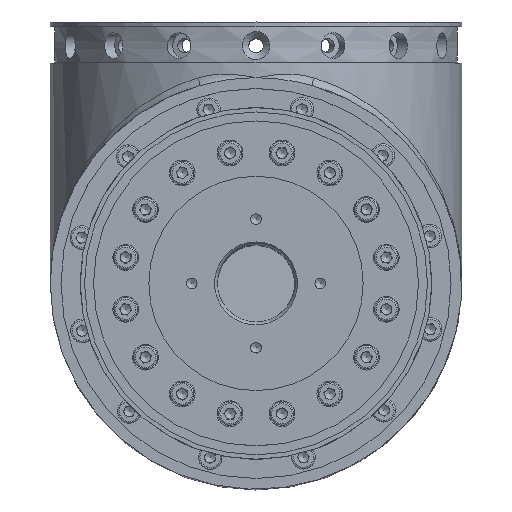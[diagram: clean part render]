
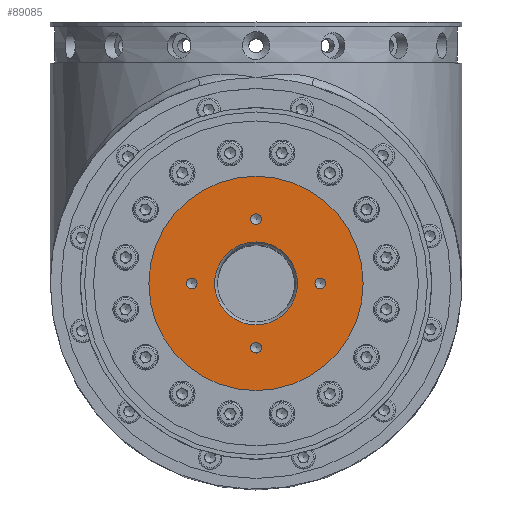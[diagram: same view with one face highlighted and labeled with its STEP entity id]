
A CAD part, top view. The second image highlights one B-rep face of the part: STEP entity #89085.
In plain terms, the highlighted planar face has unit normal (0, 0, 1).
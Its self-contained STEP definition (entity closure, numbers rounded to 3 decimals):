
#2468 = ORIENTED_EDGE ( 'NONE', *, *, #68389, .F. ) ;
#2824 = CIRCLE ( 'NONE', #20443, 1.25 ) ;
#6786 = DIRECTION ( 'NONE',  ( 1., 0., 0. ) ) ;
#7253 = DIRECTION ( 'NONE',  ( 0., 0., 1. ) ) ;
#11720 = DIRECTION ( 'NONE',  ( 0., 0., 1. ) ) ;
#12011 = VERTEX_POINT ( 'NONE', #95193 ) ;
#12749 = VERTEX_POINT ( 'NONE', #43337 ) ;
#13172 = ORIENTED_EDGE ( 'NONE', *, *, #71803, .F. ) ;
#14594 = VERTEX_POINT ( 'NONE', #45179 ) ;
#14777 = CARTESIAN_POINT ( 'NONE',  ( 0., 15., 10.5 ) ) ;
#14791 = CIRCLE ( 'NONE', #58028, 1.25 ) ;
#15651 = EDGE_LOOP ( 'NONE', ( #2468 ) ) ;
#16644 = EDGE_LOOP ( 'NONE', ( #58178 ) ) ;
#19090 = AXIS2_PLACEMENT_3D ( 'NONE', #80443, #48901, #35396 ) ;
#20017 = EDGE_CURVE ( 'NONE', #14594, #14594, #97496, .T. ) ;
#20443 = AXIS2_PLACEMENT_3D ( 'NONE', #66351, #11720, #42305 ) ;
#23036 = DIRECTION ( 'NONE',  ( -1., 0., 0. ) ) ;
#24969 = CARTESIAN_POINT ( 'NONE',  ( 15., -1.25, 10.5 ) ) ;
#29188 = DIRECTION ( 'NONE',  ( 0., 0., 1. ) ) ;
#29353 = DIRECTION ( 'NONE',  ( 1., 0., 0. ) ) ;
#29370 = FACE_OUTER_BOUND ( 'NONE', #16644, .T. ) ;
#29380 = DIRECTION ( 'NONE',  ( 0., 0., 1. ) ) ;
#35188 = EDGE_CURVE ( 'NONE', #12011, #12011, #14791, .T. ) ;
#35396 = DIRECTION ( 'NONE',  ( 1., 0., 0. ) ) ;
#36906 = CARTESIAN_POINT ( 'NONE',  ( -15., 0., 10.5 ) ) ;
#42305 = DIRECTION ( 'NONE',  ( 0., -1., 0. ) ) ;
#43337 = CARTESIAN_POINT ( 'NONE',  ( -15., 1.25, 10.5 ) ) ;
#43714 = DIRECTION ( 'NONE',  ( -1., 0., 0. ) ) ;
#44649 = VERTEX_POINT ( 'NONE', #82708 ) ;
#44889 = CARTESIAN_POINT ( 'NONE',  ( 0., 0., 10.5 ) ) ;
#45179 = CARTESIAN_POINT ( 'NONE',  ( 25., 0., 10.5 ) ) ;
#45235 = AXIS2_PLACEMENT_3D ( 'NONE', #98301, #29188, #43714 ) ;
#45372 = FACE_BOUND ( 'NONE', #64710, .T. ) ;
#45861 = FACE_BOUND ( 'NONE', #96753, .T. ) ;
#48901 = DIRECTION ( 'NONE',  ( 0., 0., 1. ) ) ;
#50402 = CIRCLE ( 'NONE', #63220, 9.677 ) ;
#52408 = PLANE ( 'NONE',  #85600 ) ;
#56328 = ORIENTED_EDGE ( 'NONE', *, *, #35188, .F. ) ;
#56776 = ORIENTED_EDGE ( 'NONE', *, *, #81385, .F. ) ;
#57914 = AXIS2_PLACEMENT_3D ( 'NONE', #36906, #29380, #65988 ) ;
#58028 = AXIS2_PLACEMENT_3D ( 'NONE', #14777, #7253, #29353 ) ;
#58178 = ORIENTED_EDGE ( 'NONE', *, *, #20017, .T. ) ;
#59853 = CARTESIAN_POINT ( 'NONE',  ( -1.25, -15., 10.5 ) ) ;
#63220 = AXIS2_PLACEMENT_3D ( 'NONE', #90172, #76119, #23036 ) ;
#64710 = EDGE_LOOP ( 'NONE', ( #56328 ) ) ;
#65988 = DIRECTION ( 'NONE',  ( 0., 1., 0. ) ) ;
#66351 = CARTESIAN_POINT ( 'NONE',  ( 15., 0., 10.5 ) ) ;
#66380 = VERTEX_POINT ( 'NONE', #59853 ) ;
#67454 = FACE_BOUND ( 'NONE', #15651, .T. ) ;
#68389 = EDGE_CURVE ( 'NONE', #44649, #44649, #50402, .T. ) ;
#71803 = EDGE_CURVE ( 'NONE', #93109, #93109, #2824, .T. ) ;
#72815 = EDGE_LOOP ( 'NONE', ( #56776 ) ) ;
#73342 = EDGE_LOOP ( 'NONE', ( #13172 ) ) ;
#75436 = DIRECTION ( 'NONE',  ( 0., 0., 1. ) ) ;
#76119 = DIRECTION ( 'NONE',  ( 0., 0., 1. ) ) ;
#79700 = EDGE_CURVE ( 'NONE', #12749, #12749, #83492, .T. ) ;
#80443 = CARTESIAN_POINT ( 'NONE',  ( 0., 0., 10.5 ) ) ;
#81385 = EDGE_CURVE ( 'NONE', #66380, #66380, #88420, .T. ) ;
#82647 = ORIENTED_EDGE ( 'NONE', *, *, #79700, .F. ) ;
#82708 = CARTESIAN_POINT ( 'NONE',  ( -9.677, 0., 10.5 ) ) ;
#83492 = CIRCLE ( 'NONE', #57914, 1.25 ) ;
#83916 = FACE_BOUND ( 'NONE', #73342, .T. ) ;
#85600 = AXIS2_PLACEMENT_3D ( 'NONE', #44889, #75436, #6786 ) ;
#88420 = CIRCLE ( 'NONE', #45235, 1.25 ) ;
#89085 = ADVANCED_FACE ( 'NONE', ( #67454, #45372, #83916, #98002, #45861, #29370 ), #52408, .T. ) ;
#90172 = CARTESIAN_POINT ( 'NONE',  ( 0., 0., 10.5 ) ) ;
#93109 = VERTEX_POINT ( 'NONE', #24969 ) ;
#95193 = CARTESIAN_POINT ( 'NONE',  ( 1.25, 15., 10.5 ) ) ;
#96753 = EDGE_LOOP ( 'NONE', ( #82647 ) ) ;
#97496 = CIRCLE ( 'NONE', #19090, 25. ) ;
#98002 = FACE_BOUND ( 'NONE', #72815, .T. ) ;
#98301 = CARTESIAN_POINT ( 'NONE',  ( 0., -15., 10.5 ) ) ;
